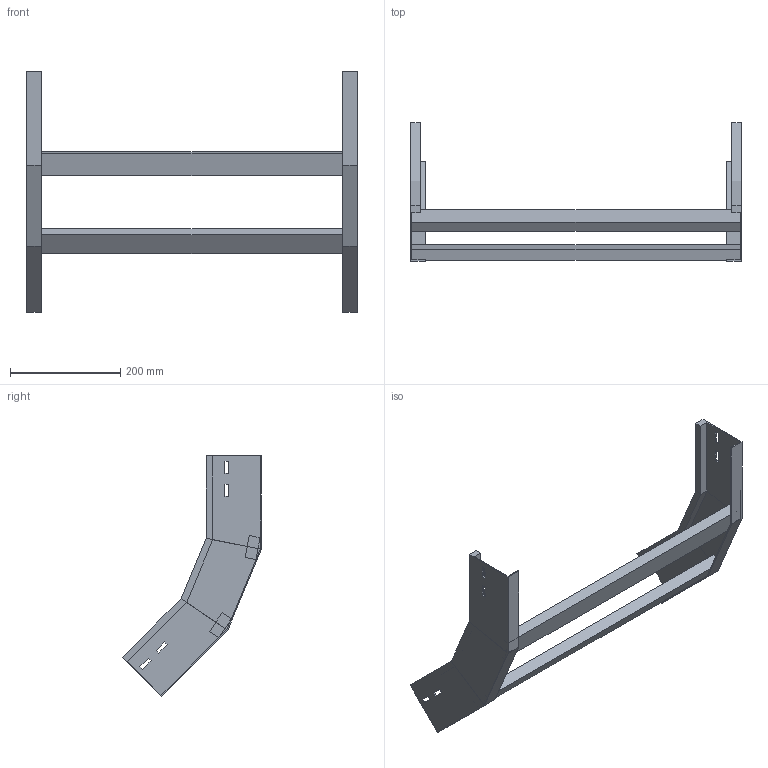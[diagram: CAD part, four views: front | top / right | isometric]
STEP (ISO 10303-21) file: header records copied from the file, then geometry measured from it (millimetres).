
FILE_DESCRIPTION (( 'STEP AP214' ), '1' );
FILE_NAME ('A2X31B3D600XX.step', '2025-03-20T10:04:05', ( '' ), ( '' ), 'SwSTEP 2.0', 'SolidWorks 2023', '' );
FILE_SCHEMA (( 'AUTOMOTIVE_DESIGN' ));
Length unit declared in the file: millimetre
Products named in the file (3): A2X31B3D600XX; TRAVERSINO_600; LONGH.SALITA_45°_H100_R300
Assembly tree (4 placements, depth 2):
  A2X31B3D600XX
    LONGH.SALITA_45°_H100_R300  x2
    TRAVERSINO_600  x2
Bounding box: 600 x 251.29 x 435.96 mm (x, y, z)
Volume: 1358310.5 mm3; surface area: 411291 mm2
Topology: 4 solids, 4 shells, 96 faces, 232 edges, 144 vertices
Faces by surface type: plane 96
Entity records: 1472 total; most frequent: CARTESIAN_POINT 243, ORIENTED_EDGE 232, DIRECTION 226, LINE 116, VECTOR 116, EDGE_CURVE 116, VERTEX_POINT 72, EDGE_LOOP 56
